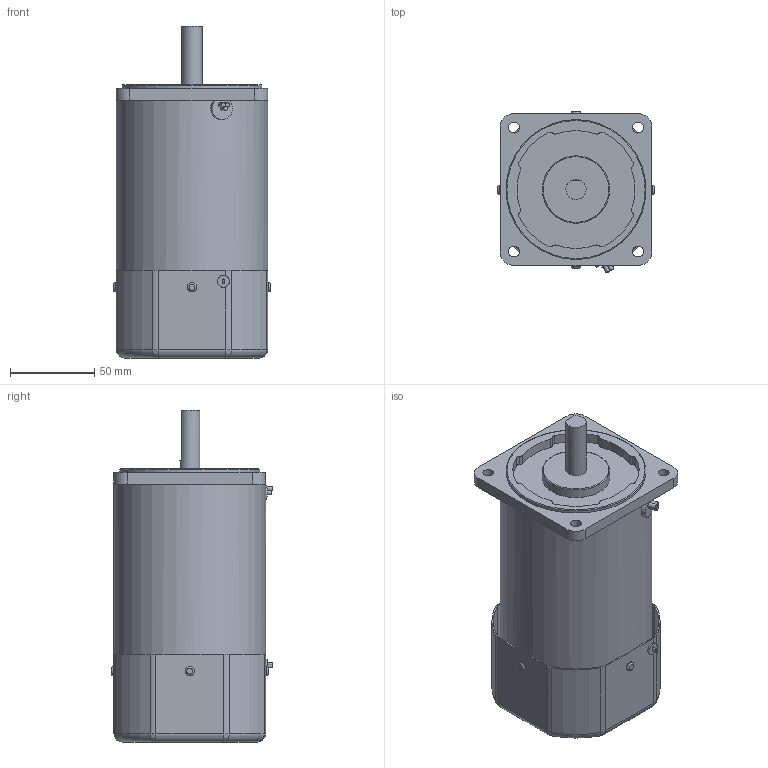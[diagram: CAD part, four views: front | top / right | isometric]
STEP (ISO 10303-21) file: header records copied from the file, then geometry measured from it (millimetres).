
FILE_DESCRIPTION((''),'2;1');
FILE_NAME('E:\2공장-도면\3D\표준형 3D(민규)\step file\SU,SP\K9IS60Fㅁ-Sㅁ.stp','2014-11-14T14:07:33',('AHN'),(''),'Autodesk Inventor 2012','Autodesk Inventor 2012','');
FILE_SCHEMA(('CONFIG_CONTROL_DESIGN'));
Length unit declared in the file: millimetre
Products named in the file (1): K9IS60Fㅁ-Sㅁ
Bounding box: 93 x 95.71 x 197 mm (x, y, z)
Volume: 941998.4 mm3; surface area: 99466.5 mm2
Topology: 1 solids, 1 shells, 251 faces, 621 edges, 377 vertices
Faces by surface type: cylinder 127, plane 78, torus 38, bspline 8
Full cylindrical faces by diameter (mm): 1.4 x2, 5.5 x4, 6.5 x4, 7 x2, 8 x4, 12 x1, 40 x1, 83 x1, 90 x1
Entity records: 8073 total; most frequent: CARTESIAN_POINT 2107, DIRECTION 1287, ORIENTED_EDGE 1182, EDGE_CURVE 591, AXIS2_PLACEMENT_3D 511, VERTEX_POINT 371, EDGE_LOOP 322, CIRCLE 267
